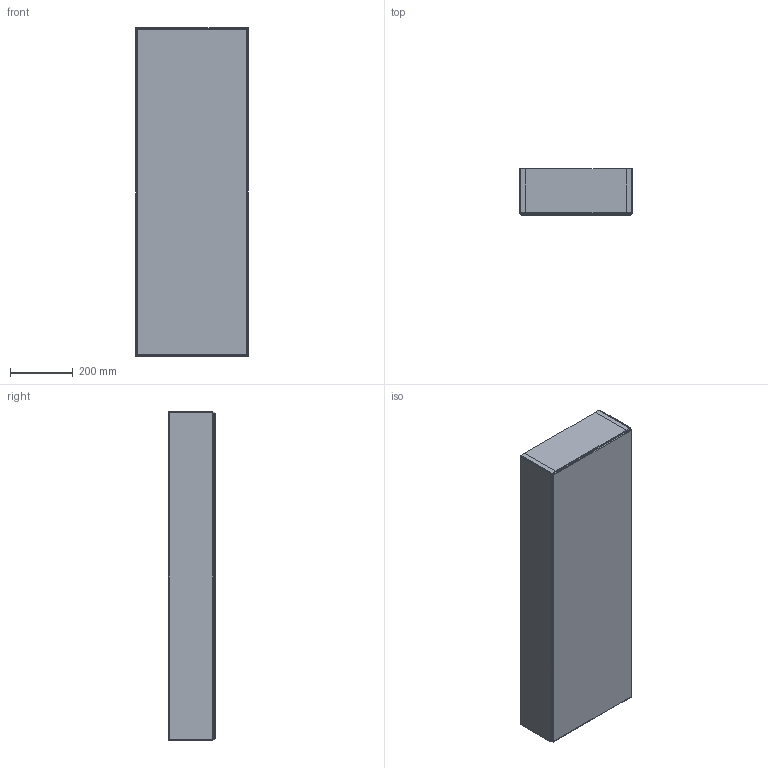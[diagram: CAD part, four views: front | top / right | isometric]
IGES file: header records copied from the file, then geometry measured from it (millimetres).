
Start section: Data from Parasolid IGES Translator 19.0.9, Copyright(c) 2006 Siemens PL M Software. All Rights Reserved.
Global section: file name: noorth-mirror-H 105 D 14,7 W 36_9055.igs; native system: By Siemens PLM Incorporated; preprocessor: XPlus GENERIC/IGES 19.0.9; author: Noname; organization: Noname; date: 20200519.094818; units: metre
Bounding box: 359.82 x 147 x 1050 mm (x, y, z)
Volume: 11353823.1 mm3; surface area: 3168753.3 mm2
Topology: 12 solids, 12 shells, 196 faces, 372 edges, 200 vertices
Faces by surface type: plane 196
